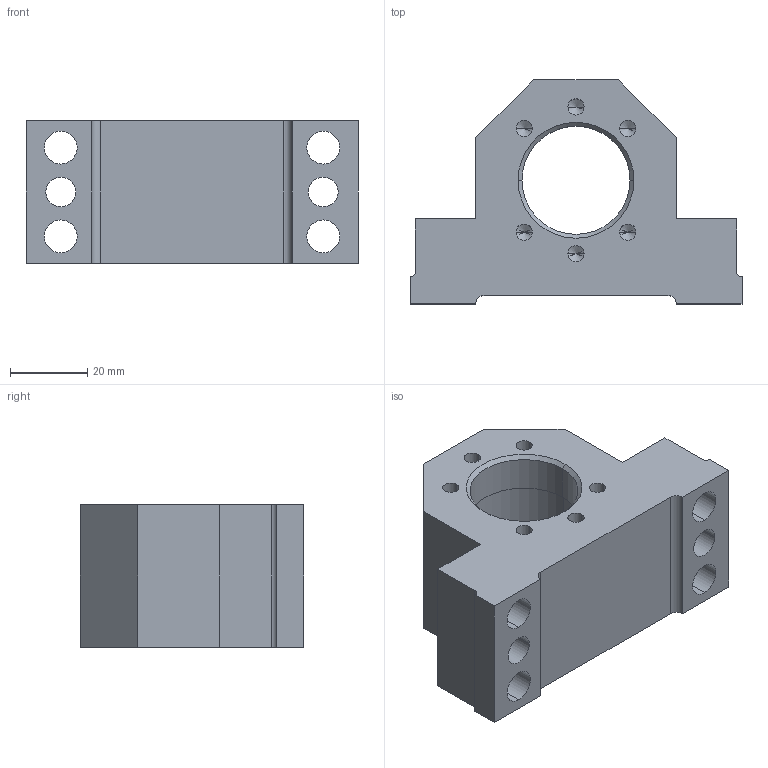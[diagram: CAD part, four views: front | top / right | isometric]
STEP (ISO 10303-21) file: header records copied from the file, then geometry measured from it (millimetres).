
FILE_DESCRIPTION (( 'STEP AP203' ), '1' );
FILE_NAME ('GFD-16.STEP', '2002-08-15T13:55:02', ( '.' ), ( '.' ), 'SwSTEP 2.0', 'SolidWorks 2001340', '' );
FILE_SCHEMA (( 'CONFIG_CONTROL_DESIGN' ));
Length unit declared in the file: millimetre
Products named in the file (1): GFD-16
Bounding box: 86 x 58 x 37 mm (x, y, z)
Volume: 93126.3 mm3; surface area: 22916.4 mm2
Topology: 1 solids, 1 shells, 63 faces, 166 edges, 100 vertices
Faces by surface type: cylinder 32, plane 17, cone 14
Entity records: 1975 total; most frequent: DIRECTION 348, CARTESIAN_POINT 318, ORIENTED_EDGE 308, EDGE_CURVE 154, AXIS2_PLACEMENT_3D 130, VERTEX_POINT 100, LINE 88, VECTOR 88
